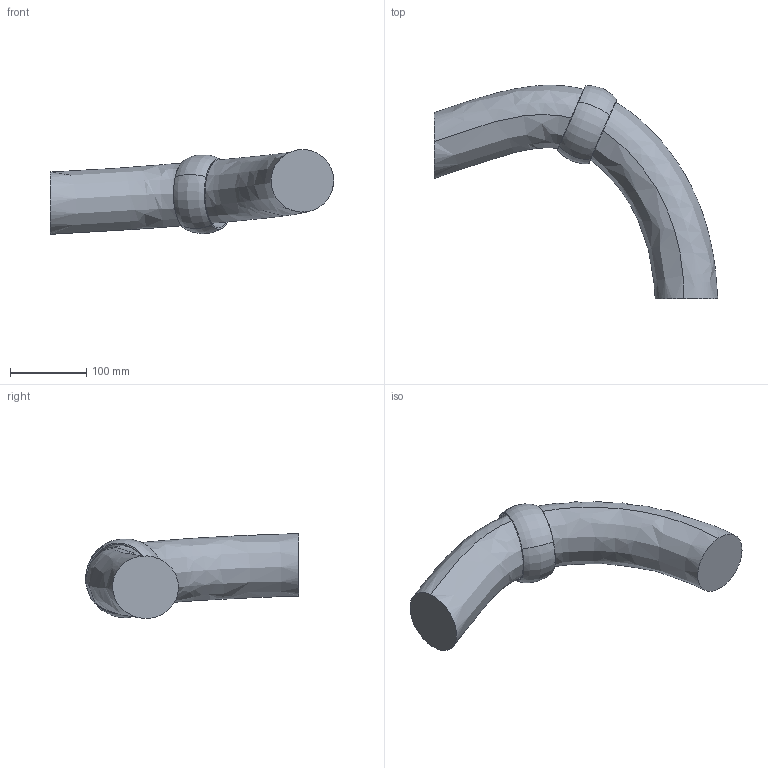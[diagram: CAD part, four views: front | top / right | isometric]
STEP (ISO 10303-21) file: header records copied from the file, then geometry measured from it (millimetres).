
FILE_DESCRIPTION (( 'STEP AP203' ), '1' );
FILE_NAME ('IRB8700-MH6_800-350_IRC5_rev00_LINK5_CABLE.STEP', '2015-06-04T08:29:45', ( 'ABB' ), ( 'ABB' ), 'SwSTEP 2.0', 'SolidWorks 2014', '' );
FILE_SCHEMA (( 'CONFIG_CONTROL_DESIGN' ));
Length unit declared in the file: millimetre
Products named in the file (1): IRB8700-MH6_800-350_IRC5_rev00_LINK5_CABLE
Bounding box: 371.68 x 279.79 x 111.19 mm (x, y, z)
Volume: 2666325.1 mm3; surface area: 167257.4 mm2
Topology: 3 solids, 3 shells, 60 faces, 142 edges, 88 vertices
Faces by surface type: bspline 42, plane 6, cone 6, torus 4, cylinder 2
Entity records: 3472 total; most frequent: CARTESIAN_POINT 2202, ORIENTED_EDGE 284, DIRECTION 216, EDGE_CURVE 142, AXIS2_PLACEMENT_3D 101, VERTEX_POINT 88, CIRCLE 82, FACE_OUTER_BOUND 60
